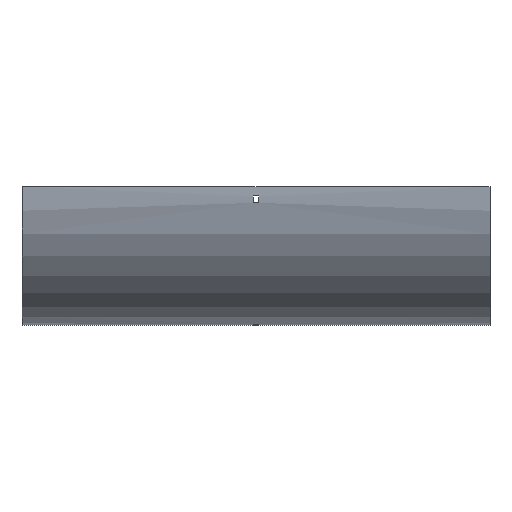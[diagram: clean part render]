
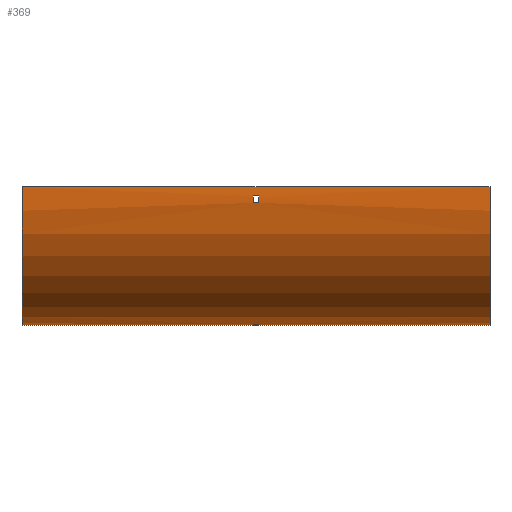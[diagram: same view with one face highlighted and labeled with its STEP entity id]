
A CAD part, front view. The second image highlights one B-rep face of the part: STEP entity #369.
In plain terms, the highlighted cylindrical face has radius 179 mm (diameter 358 mm), a partial arc.
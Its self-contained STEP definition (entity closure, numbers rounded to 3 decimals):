
#55 = CIRCLE ( 'NONE', #1670, 179. ) ;
#58 = CYLINDRICAL_SURFACE ( 'NONE', #83, 179. ) ;
#68 = CARTESIAN_POINT ( 'NONE',  ( -302., -79., 0. ) ) ;
#83 = AXIS2_PLACEMENT_3D ( 'NONE', #822, #346, #858 ) ;
#90 = ORIENTED_EDGE ( 'NONE', *, *, #1078, .F. ) ;
#117 = AXIS2_PLACEMENT_3D ( 'NONE', #806, #158, #286 ) ;
#126 = DIRECTION ( 'NONE',  ( 0., 0., 1. ) ) ;
#137 = LINE ( 'NONE', #785, #437 ) ;
#150 = EDGE_LOOP ( 'NONE', ( #1141, #1302, #483, #1587 ) ) ;
#158 = DIRECTION ( 'NONE',  ( 1., 0., 0. ) ) ;
#222 = EDGE_CURVE ( 'NONE', #1571, #714, #137, .T. ) ;
#226 = VERTEX_POINT ( 'NONE', #1431 ) ;
#227 = CIRCLE ( 'NONE', #117, 179. ) ;
#241 = CARTESIAN_POINT ( 'NONE',  ( 302., 100., -179. ) ) ;
#247 = CARTESIAN_POINT ( 'NONE',  ( -3.25, 100., 0. ) ) ;
#277 = CIRCLE ( 'NONE', #297, 179. ) ;
#278 = DIRECTION ( 'NONE',  ( 1., 0., 0. ) ) ;
#280 = DIRECTION ( 'NONE',  ( 1., 0., 0. ) ) ;
#286 = DIRECTION ( 'NONE',  ( 0., 0., -1. ) ) ;
#297 = AXIS2_PLACEMENT_3D ( 'NONE', #1518, #1526, #752 ) ;
#306 = EDGE_CURVE ( 'NONE', #1186, #1470, #1164, .T. ) ;
#337 = LINE ( 'NONE', #1345, #1222 ) ;
#346 = DIRECTION ( 'NONE',  ( -1., 0., 0. ) ) ;
#348 = DIRECTION ( 'NONE',  ( 0., 1., 0. ) ) ;
#369 = ADVANCED_FACE ( 'NONE', ( #433, #1497, #1373 ), #58, .T. ) ;
#371 = LINE ( 'NONE', #1618, #742 ) ;
#379 = EDGE_CURVE ( 'NONE', #1363, #1417, #337, .T. ) ;
#411 = ORIENTED_EDGE ( 'NONE', *, *, #379, .F. ) ;
#429 = VERTEX_POINT ( 'NONE', #966 ) ;
#433 = FACE_OUTER_BOUND ( 'NONE', #1506, .T. ) ;
#437 = VECTOR ( 'NONE', #280, 1000. ) ;
#453 = ORIENTED_EDGE ( 'NONE', *, *, #860, .F. ) ;
#483 = ORIENTED_EDGE ( 'NONE', *, *, #222, .T. ) ;
#491 = VERTEX_POINT ( 'NONE', #621 ) ;
#504 = EDGE_CURVE ( 'NONE', #714, #1186, #277, .T. ) ;
#509 = EDGE_CURVE ( 'NONE', #996, #1298, #1282, .T. ) ;
#511 = DIRECTION ( 'NONE',  ( -1., 0., 0. ) ) ;
#526 = CARTESIAN_POINT ( 'NONE',  ( 302., -79., 0. ) ) ;
#621 = CARTESIAN_POINT ( 'NONE',  ( -3.25, 88., -178.597 ) ) ;
#631 = CARTESIAN_POINT ( 'NONE',  ( 302., -79., 0. ) ) ;
#641 = CARTESIAN_POINT ( 'NONE',  ( 302., 100., -179. ) ) ;
#657 = VECTOR ( 'NONE', #511, 1000. ) ;
#714 = VERTEX_POINT ( 'NONE', #912 ) ;
#737 = EDGE_CURVE ( 'NONE', #226, #1363, #1195, .T. ) ;
#742 = VECTOR ( 'NONE', #971, 1000. ) ;
#752 = DIRECTION ( 'NONE',  ( 0., 0., -1. ) ) ;
#767 = AXIS2_PLACEMENT_3D ( 'NONE', #1444, #278, #348 ) ;
#776 = CARTESIAN_POINT ( 'NONE',  ( -302., 100., 0. ) ) ;
#785 = CARTESIAN_POINT ( 'NONE',  ( 302., -78.597, -12. ) ) ;
#787 = ORIENTED_EDGE ( 'NONE', *, *, #509, .T. ) ;
#806 = CARTESIAN_POINT ( 'NONE',  ( 302., 100., 0. ) ) ;
#808 = DIRECTION ( 'NONE',  ( -1., 0., 0. ) ) ;
#815 = CIRCLE ( 'NONE', #767, 179. ) ;
#822 = CARTESIAN_POINT ( 'NONE',  ( 302., 100., 0. ) ) ;
#839 = CARTESIAN_POINT ( 'NONE',  ( -3.25, -78.597, -12. ) ) ;
#845 = CARTESIAN_POINT ( 'NONE',  ( 3.25, 100., 0. ) ) ;
#858 = DIRECTION ( 'NONE',  ( 0., 0., 1. ) ) ;
#860 = EDGE_CURVE ( 'NONE', #491, #226, #371, .T. ) ;
#861 = CARTESIAN_POINT ( 'NONE',  ( 3.25, -77.764, -21. ) ) ;
#868 = ORIENTED_EDGE ( 'NONE', *, *, #1184, .F. ) ;
#912 = CARTESIAN_POINT ( 'NONE',  ( 3.25, -78.597, -12. ) ) ;
#928 = EDGE_CURVE ( 'NONE', #1470, #1571, #55, .T. ) ;
#949 = DIRECTION ( 'NONE',  ( -1., 0., 0. ) ) ;
#956 = EDGE_CURVE ( 'NONE', #1298, #429, #1150, .T. ) ;
#966 = CARTESIAN_POINT ( 'NONE',  ( -302., 100., -179. ) ) ;
#971 = DIRECTION ( 'NONE',  ( 1., 0., 0. ) ) ;
#996 = VERTEX_POINT ( 'NONE', #526 ) ;
#998 = ORIENTED_EDGE ( 'NONE', *, *, #1012, .F. ) ;
#1008 = DIRECTION ( 'NONE',  ( 0., 0., 1. ) ) ;
#1009 = VECTOR ( 'NONE', #808, 1000. ) ;
#1011 = AXIS2_PLACEMENT_3D ( 'NONE', #776, #1560, #1286 ) ;
#1012 = EDGE_CURVE ( 'NONE', #1407, #429, #1409, .T. ) ;
#1078 = EDGE_CURVE ( 'NONE', #996, #1407, #227, .T. ) ;
#1141 = ORIENTED_EDGE ( 'NONE', *, *, #306, .T. ) ;
#1150 = CIRCLE ( 'NONE', #1011, 179. ) ;
#1164 = LINE ( 'NONE', #1685, #1009 ) ;
#1182 = CARTESIAN_POINT ( 'NONE',  ( -3.25, -77.764, -21. ) ) ;
#1184 = EDGE_CURVE ( 'NONE', #1417, #491, #815, .T. ) ;
#1186 = VERTEX_POINT ( 'NONE', #861 ) ;
#1192 = EDGE_LOOP ( 'NONE', ( #868, #411, #1238, #453 ) ) ;
#1195 = CIRCLE ( 'NONE', #1496, 179. ) ;
#1210 = ORIENTED_EDGE ( 'NONE', *, *, #956, .T. ) ;
#1222 = VECTOR ( 'NONE', #949, 1000. ) ;
#1238 = ORIENTED_EDGE ( 'NONE', *, *, #737, .F. ) ;
#1282 = LINE ( 'NONE', #631, #1494 ) ;
#1286 = DIRECTION ( 'NONE',  ( 0., 0., -1. ) ) ;
#1297 = DIRECTION ( 'NONE',  ( -1., 0., 0. ) ) ;
#1298 = VERTEX_POINT ( 'NONE', #68 ) ;
#1302 = ORIENTED_EDGE ( 'NONE', *, *, #928, .T. ) ;
#1345 = CARTESIAN_POINT ( 'NONE',  ( 302., 79., -177.764 ) ) ;
#1363 = VERTEX_POINT ( 'NONE', #1436 ) ;
#1373 = FACE_BOUND ( 'NONE', #1192, .T. ) ;
#1407 = VERTEX_POINT ( 'NONE', #641 ) ;
#1409 = LINE ( 'NONE', #241, #657 ) ;
#1417 = VERTEX_POINT ( 'NONE', #1549 ) ;
#1422 = DIRECTION ( 'NONE',  ( -1., 0., 0. ) ) ;
#1431 = CARTESIAN_POINT ( 'NONE',  ( 3.25, 88., -178.597 ) ) ;
#1436 = CARTESIAN_POINT ( 'NONE',  ( 3.25, 79., -177.764 ) ) ;
#1444 = CARTESIAN_POINT ( 'NONE',  ( -3.25, 100., 0. ) ) ;
#1470 = VERTEX_POINT ( 'NONE', #1182 ) ;
#1494 = VECTOR ( 'NONE', #1297, 1000. ) ;
#1496 = AXIS2_PLACEMENT_3D ( 'NONE', #845, #1523, #1008 ) ;
#1497 = FACE_BOUND ( 'NONE', #150, .T. ) ;
#1506 = EDGE_LOOP ( 'NONE', ( #1210, #998, #90, #787 ) ) ;
#1518 = CARTESIAN_POINT ( 'NONE',  ( 3.25, 100., 0. ) ) ;
#1523 = DIRECTION ( 'NONE',  ( -1., 0., 0. ) ) ;
#1526 = DIRECTION ( 'NONE',  ( 1., 0., 0. ) ) ;
#1549 = CARTESIAN_POINT ( 'NONE',  ( -3.25, 79., -177.764 ) ) ;
#1560 = DIRECTION ( 'NONE',  ( 1., 0., 0. ) ) ;
#1571 = VERTEX_POINT ( 'NONE', #839 ) ;
#1587 = ORIENTED_EDGE ( 'NONE', *, *, #504, .T. ) ;
#1618 = CARTESIAN_POINT ( 'NONE',  ( 302., 88., -178.597 ) ) ;
#1670 = AXIS2_PLACEMENT_3D ( 'NONE', #247, #1422, #126 ) ;
#1685 = CARTESIAN_POINT ( 'NONE',  ( 302., -77.764, -21. ) ) ;
